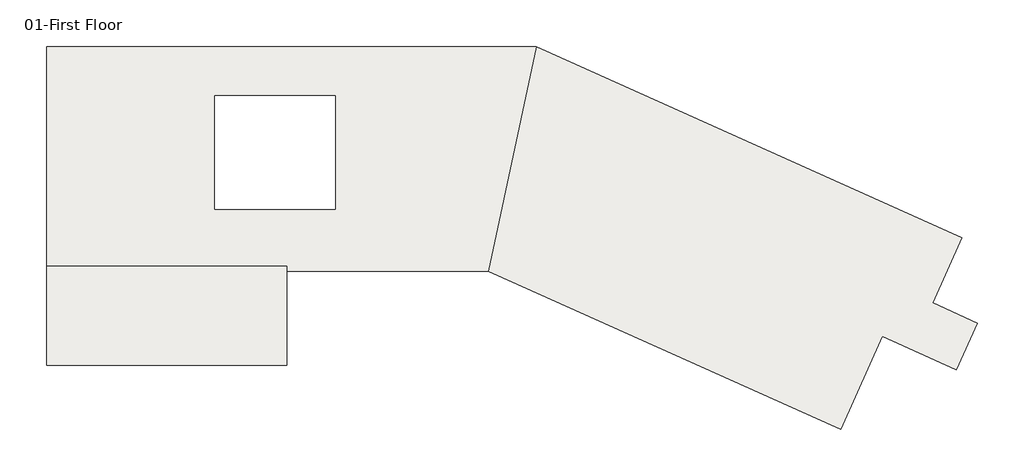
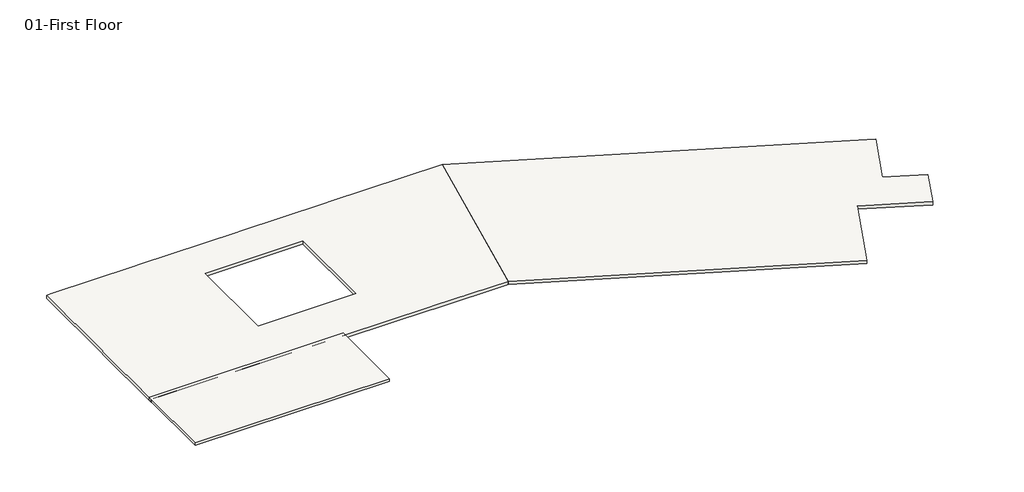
# One storey: 3 slabs, 2 beams.
"""IFC4 building model written with IfcOpenShell, lengths in millimetres."""

from ifc_helpers import new_model, si_unit, frame, origin, place, context, project, spatial, polyline, outline, extrude, faceted_brep, element, save

model = new_model("IFC4")

# Units and contexts
model_context = context("Model", 3, world=origin())
ifc_project = project(units=[si_unit("LENGTHUNIT", "METRE", prefix="MILLI")], contexts=[model_context])

# Site, building, storey
site = spatial("IfcSite", under=ifc_project)
building = spatial("IfcBuilding", under=site)
storey = spatial("IfcBuildingStorey", under=building, Name="01-First Floor", Elevation=3352.8)

# Beams
placement = place(None, origin())
element("IfcBeam", 1, ObjectType="Concrete-Rectangular Beam : 12 x 24", at=placement, inside=storey, context=model_context, shape_type="SweptSolid", body=[
    extrude(outline(polyline([(152.4, -14147.8), (152.4, -13843.0), (6858.0, -13843.0), (6858.0, -14147.8), (152.4, -14147.8)])), frame((0.0, 0.0, 2743.2), z_axis=(0.0, 0.0, 1.0), x_axis=(1.0, 0.0, 0.0)), (0.0, 0.0, 1.0), 355.6),
])
element("IfcBeam", 2, ObjectType="Concrete-Rectangular Beam : 12 x 24", at=placement, inside=storey, context=model_context, shape_type="SweptSolid", body=[
    extrude(outline(polyline([(14846.3, -13843.0), (14846.3, -14147.8), (7162.8, -14147.8), (7162.8, -13843.0), (14846.3, -13843.0)])), frame((0.0, 0.0, 2743.2), z_axis=(0.0, 0.0, 1.0), x_axis=(1.0, 0.0, 0.0)), (0.0, 0.0, 1.0), 355.6),
])

# Slabs
element("IfcSlab", 3, ObjectType="RC Composite Slab 8\"", at=placement, inside=storey, context=model_context, shape_type="Brep", body=[
    faceted_brep([(15137.511, -20154.9, 3149.6), (-152.4, -20154.9, 3149.6), (-152.4, -13855.7, 3149.6), (15137.511, -13855.7, 3149.6), (15137.511, -20154.9, 3352.8), (15137.511, -13855.7, 3352.8), (-152.4, -13855.7, 3352.8), (-152.4, -14147.8, 3352.8), (-152.4, -20154.9, 3352.8)], [[[0, 1, 2, 3]], [[4, 5, 6, 7, 8]], [[1, 0, 4, 8]], [[2, 1, 8, 7, 6]], [[3, 2, 6, 5]], [[0, 3, 5, 4]]]),
])
element("IfcSlab", 4, ObjectType="RC Slab 10\"", at=placement, inside=storey, context=model_context, shape_type="Brep", body=[
    faceted_brep([(31033.4244536, 152.4, 3098.8), (27969.0958822, -14147.8, 3098.8), (22161.5, -14147.8, 3098.8), (21856.7, -14147.8, 3098.8), (15151.1, -14147.8, 3098.8), (14846.3, -14147.8, 3098.8), (7162.8, -14147.8, 3098.8), (6858.0, -14147.8, 3098.8), (152.4, -14147.8, 3098.8), (-152.4, -14147.8, 3098.8), (-152.4, -13843.0, 3098.8), (-152.4, -7658.1, 3098.8), (-152.4, -7353.3, 3098.8), (-152.4, -152.4, 3098.8), (-152.4, 152.4, 3098.8), (152.4, 152.4, 3098.8), (6858.0, 152.4, 3098.8), (7162.8, 152.4, 3098.8), (14846.3, 152.4, 3098.8), (15151.1, 152.4, 3098.8), (21856.7, 152.4, 3098.8), (22161.5, 152.4, 3098.8), (18249.9, -2984.5, 3098.8), (10553.7, -2984.5, 3098.8), (10553.7, -10198.1, 3098.8), (18249.9, -10198.1, 3098.8), (31033.4244536, 152.4, 3352.8), (22161.5, 152.4, 3352.8), (21856.7, 152.4, 3352.8), (15151.1, 152.4, 3352.8), (14846.3, 152.4, 3352.8), (7162.8, 152.4, 3352.8), (6858.0, 152.4, 3352.8), (152.4, 152.4, 3352.8), (-152.4, 152.4, 3352.8), (-152.4, -152.4, 3352.8), (-152.4, -7353.3, 3352.8), (-152.4, -7658.1, 3352.8), (-152.4, -13843.0, 3352.8), (-152.4, -14147.8, 3352.8), (152.4, -14147.8, 3352.8), (6858.0, -14147.8, 3352.8), (7162.8, -14147.8, 3352.8), (14846.3, -14147.8, 3352.8), (15151.1, -14147.8, 3352.8), (21856.7, -14147.8, 3352.8), (22161.5, -14147.8, 3352.8), (27969.0958822, -14147.8, 3352.8), (18249.9, -2984.5, 3352.8), (18249.9, -10198.1, 3352.8), (10553.7, -10198.1, 3352.8), (10553.7, -2984.5, 3352.8)], [[[0, 1, 2, 3, 4, 5, 6, 7, 8, 9, 10, 11, 12, 13, 14, 15, 16, 17, 18, 19, 20, 21], [22, 23, 24, 25]], [[26, 27, 28, 29, 30, 31, 32, 33, 34, 35, 36, 37, 38, 39, 40, 41, 42, 43, 44, 45, 46, 47], [48, 49, 50, 51]], [[1, 0, 26, 47]], [[9, 8, 7, 6, 5, 4, 3, 2, 1, 47, 46, 45, 44, 43, 42, 41, 40, 39]], [[14, 13, 12, 11, 10, 9, 39, 38, 37, 36, 35, 34]], [[0, 21, 20, 19, 18, 17, 16, 15, 14, 34, 33, 32, 31, 30, 29, 28, 27, 26]], [[23, 22, 48, 51]], [[24, 23, 51, 50]], [[25, 24, 50, 49]], [[22, 25, 49, 48]]]),
])
element("IfcSlab", 5, ObjectType="RC Slab 10\"", at=placement, inside=storey, context=model_context, shape_type="SweptSolid", body=[
    extrude(outline(polyline([(58160.2438961, -12032.9092683), (56297.2468229, -16180.2956098), (59147.1268229, -17460.4556098), (57809.7238961, -20437.7692683), (53083.0936522, -18314.5770732), (50423.8995059, -24234.4497561), (27969.0958822, -14147.8), (31033.4244536, 152.4), (58160.2438961, -12032.9092683)])), frame((0.0, 0.0, 3098.8), z_axis=(0.0, 0.0, 1.0), x_axis=(1.0, 0.0, 0.0)), (0.0, 0.0, 1.0), 254.0),
])

save(model, "model.ifc")
